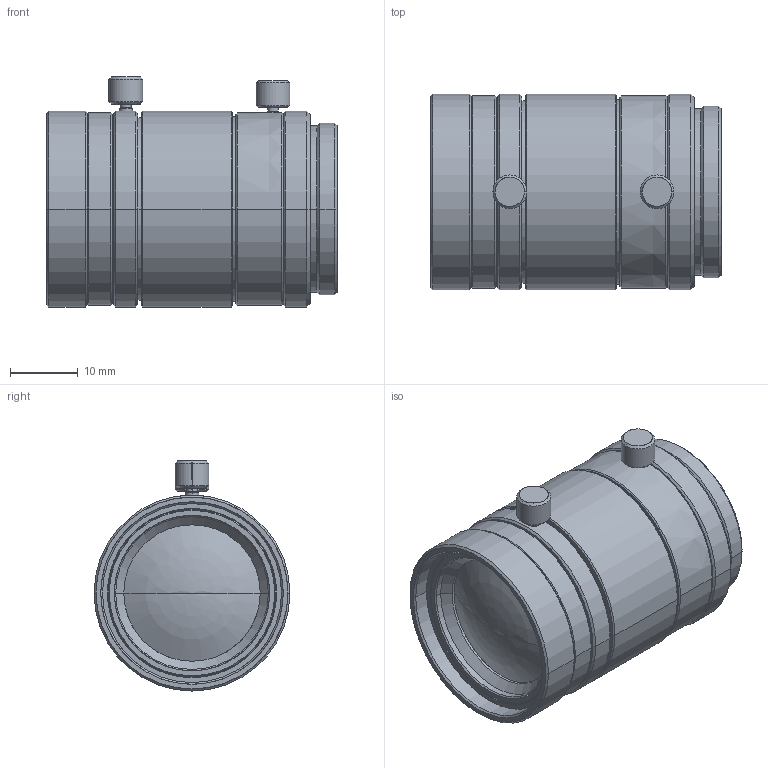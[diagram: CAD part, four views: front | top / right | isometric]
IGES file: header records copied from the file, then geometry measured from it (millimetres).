
Start section: SolidWorks IGES file using analytic representation for surfaces
Global section: file name: C:\Users\tsuji_vst\Documents\【図面】\_3D\00 VST\VS-VM\VS-5026VM.IGS; native system: SolidWorks 2016; preprocessor: SolidWorks 2016; author: tsuji_vst; date: 160330.090144; units: millimetre
Bounding box: 43 x 29 x 34.05 mm (x, y, z)
Surface area: 7218.4 mm2 (no closed solid volume)
Topology: 0 solids, 0 shells, 139 faces, 2196 edges, 2194 vertices
Faces by surface type: revolution 118, bspline 21
